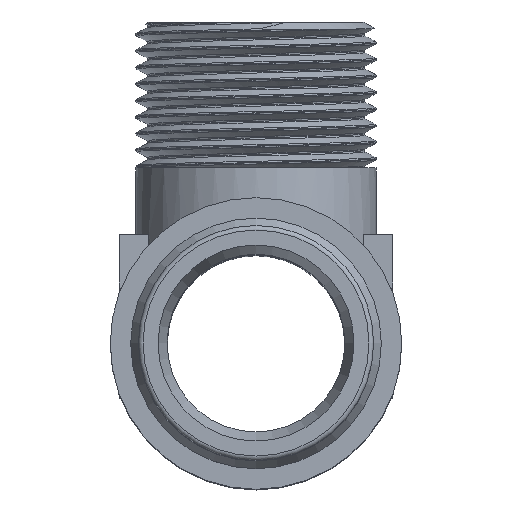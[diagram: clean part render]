
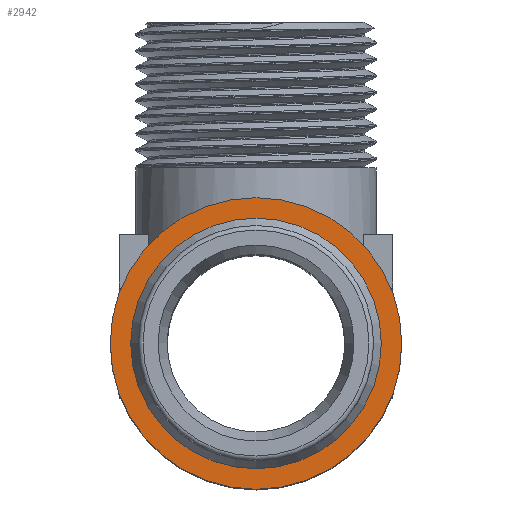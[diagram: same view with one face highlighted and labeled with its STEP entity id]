
A CAD part, top view. The second image highlights one B-rep face of the part: STEP entity #2942.
In plain terms, the highlighted planar face has unit normal (0, 0, 1).
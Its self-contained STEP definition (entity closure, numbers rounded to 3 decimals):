
#104=FACE_BOUND('',#443,.T.);
#141=PLANE('',#3168);
#273=FACE_OUTER_BOUND('',#442,.T.);
#442=EDGE_LOOP('',(#2116,#2117));
#443=EDGE_LOOP('',(#2118,#2119));
#1043=CIRCLE('',#3166,16.);
#1044=CIRCLE('',#3167,16.);
#1045=CIRCLE('',#3169,13.25);
#1046=CIRCLE('',#3170,13.25);
#1267=VERTEX_POINT('',#4568);
#1268=VERTEX_POINT('',#4569);
#1269=VERTEX_POINT('',#4574);
#1270=VERTEX_POINT('',#4575);
#1608=EDGE_CURVE('',#1267,#1268,#1043,.T.);
#1609=EDGE_CURVE('',#1268,#1267,#1044,.T.);
#1611=EDGE_CURVE('',#1269,#1270,#1045,.T.);
#1612=EDGE_CURVE('',#1270,#1269,#1046,.T.);
#2116=ORIENTED_EDGE('',*,*,#1608,.T.);
#2117=ORIENTED_EDGE('',*,*,#1609,.T.);
#2118=ORIENTED_EDGE('',*,*,#1611,.F.);
#2119=ORIENTED_EDGE('',*,*,#1612,.F.);
#2942=ADVANCED_FACE('',(#273,#104),#141,.T.);
#3166=AXIS2_PLACEMENT_3D('',#4570,#3614,#3615);
#3167=AXIS2_PLACEMENT_3D('',#4571,#3616,#3617);
#3168=AXIS2_PLACEMENT_3D('',#4573,#3619,#3620);
#3169=AXIS2_PLACEMENT_3D('',#4576,#3621,#3622);
#3170=AXIS2_PLACEMENT_3D('',#4577,#3623,#3624);
#3614=DIRECTION('center_axis',(0.,0.,1.));
#3615=DIRECTION('ref_axis',(1.,0.,0.));
#3616=DIRECTION('center_axis',(0.,0.,1.));
#3617=DIRECTION('ref_axis',(1.,0.,0.));
#3619=DIRECTION('center_axis',(0.,0.,1.));
#3620=DIRECTION('ref_axis',(1.,0.,0.));
#3621=DIRECTION('center_axis',(0.,0.,1.));
#3622=DIRECTION('ref_axis',(1.,0.,0.));
#3623=DIRECTION('center_axis',(0.,0.,1.));
#3624=DIRECTION('ref_axis',(1.,0.,0.));
#4568=CARTESIAN_POINT('',(0.,-16.,74.5));
#4569=CARTESIAN_POINT('',(0.,16.,74.5));
#4570=CARTESIAN_POINT('Origin',(0.,0.,74.5));
#4571=CARTESIAN_POINT('Origin',(0.,0.,74.5));
#4573=CARTESIAN_POINT('Origin',(0.,-13.25,74.5));
#4574=CARTESIAN_POINT('',(0.,-13.25,74.5));
#4575=CARTESIAN_POINT('',(0.,13.25,74.5));
#4576=CARTESIAN_POINT('Origin',(0.,0.,74.5));
#4577=CARTESIAN_POINT('Origin',(0.,0.,74.5));
